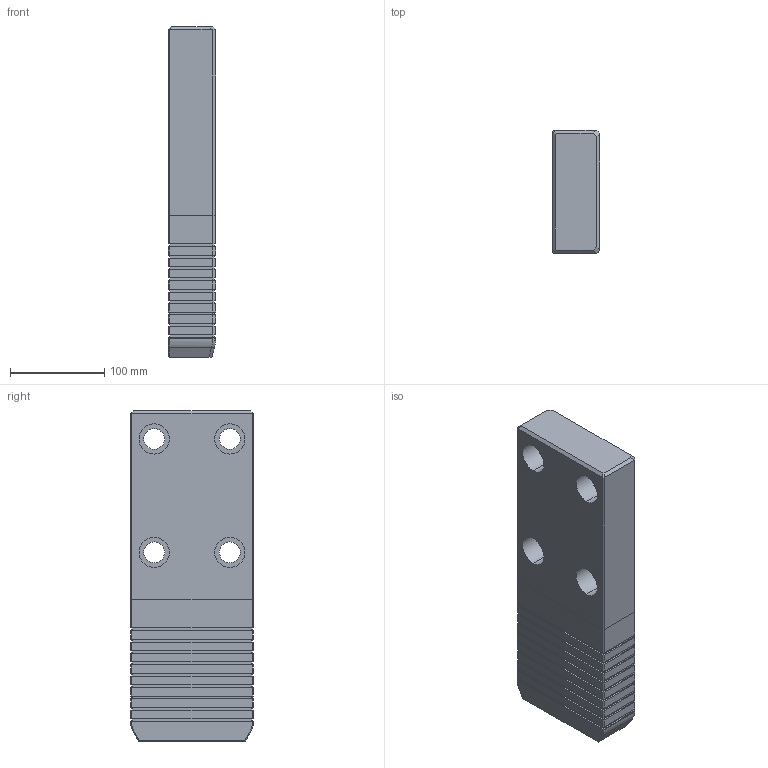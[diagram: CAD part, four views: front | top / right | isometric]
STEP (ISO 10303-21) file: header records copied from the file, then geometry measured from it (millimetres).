
FILE_DESCRIPTION((''),'2;1');
FILE_NAME('','2010-08-30T13:13:53+09:00',('misumi'),(''),'M/STEP i/f 1R2-14','CADmeister v5.1','');
FILE_SCHEMA(('AUTOMOTIVE_DESIGN'));
Length unit declared in the file: millimetre
Products named in the file (1): GWBZ130-350
Bounding box: 50 x 130 x 350 mm (x, y, z)
Volume: 2128540.1 mm3; surface area: 159100.7 mm2
Topology: 1 solids, 1 shells, 230 faces, 593 edges, 388 vertices
Faces by surface type: plane 201, cylinder 21, bspline 6, cone 2
Entity records: 7251 total; most frequent: CARTESIAN_POINT 1554, ORIENTED_EDGE 1186, DIRECTION 1065, EDGE_CURVE 593, LINE 535, VECTOR 535, VERTEX_POINT 388, AXIS2_PLACEMENT_3D 265
